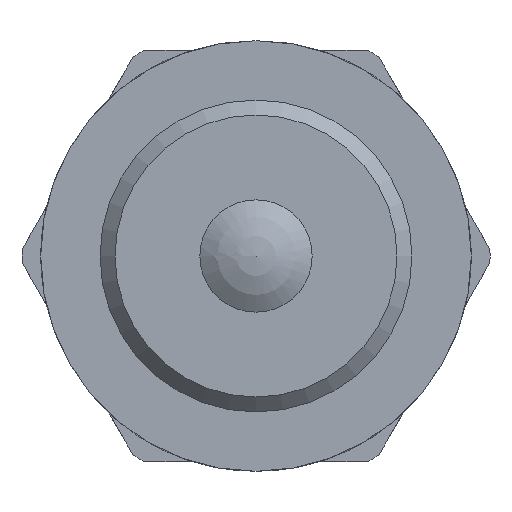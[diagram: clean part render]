
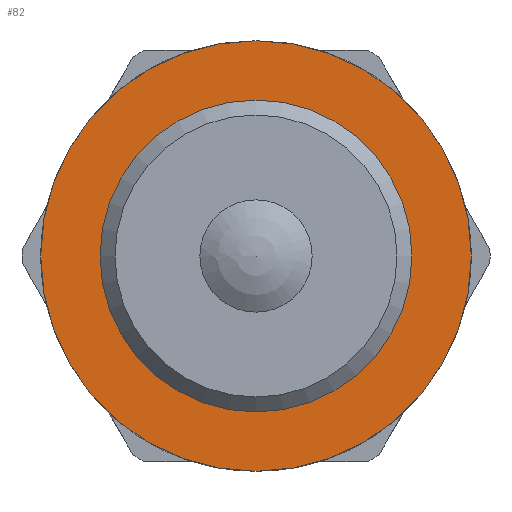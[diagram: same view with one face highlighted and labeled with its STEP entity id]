
A CAD part, front view. The second image highlights one B-rep face of the part: STEP entity #82.
In plain terms, the highlighted planar face has unit normal (0, -1, 0).
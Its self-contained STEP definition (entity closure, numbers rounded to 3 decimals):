
#82 = ADVANCED_FACE( '', ( #137, #138 ), #139, .F. );
#137 = FACE_BOUND( '', #232, .T. );
#138 = FACE_OUTER_BOUND( '', #233, .T. );
#139 = PLANE( '', #234 );
#232 = EDGE_LOOP( '', ( #350 ) );
#233 = EDGE_LOOP( '', ( #351 ) );
#234 = AXIS2_PLACEMENT_3D( '', #352, #353, #354 );
#350 = ORIENTED_EDGE( '', *, *, #614, .F. );
#351 = ORIENTED_EDGE( '', *, *, #615, .T. );
#352 = CARTESIAN_POINT( '', ( 11.5, 0., 0. ) );
#353 = DIRECTION( '', ( 0., 1., 0. ) );
#354 = DIRECTION( '', ( 0., 0., 1. ) );
#614 = EDGE_CURVE( '', #709, #709, #710, .T. );
#615 = EDGE_CURVE( '', #711, #711, #712, .T. );
#709 = VERTEX_POINT( '', #859 );
#710 = CIRCLE( '', #860, 8.331 );
#711 = VERTEX_POINT( '', #861 );
#712 = CIRCLE( '', #862, 11.5 );
#859 = CARTESIAN_POINT( '', ( 0., 0., -8.331 ) );
#860 = AXIS2_PLACEMENT_3D( '', #1064, #1065, #1066 );
#861 = CARTESIAN_POINT( '', ( 0., 0., -11.5 ) );
#862 = AXIS2_PLACEMENT_3D( '', #1067, #1068, #1069 );
#1064 = CARTESIAN_POINT( '', ( 0., 0., 0. ) );
#1065 = DIRECTION( '', ( 0., -1., 0. ) );
#1066 = DIRECTION( '', ( 0., 0., -1. ) );
#1067 = CARTESIAN_POINT( '', ( 0., 0., 0. ) );
#1068 = DIRECTION( '', ( 0., -1., 0. ) );
#1069 = DIRECTION( '', ( 0., 0., -1. ) );
